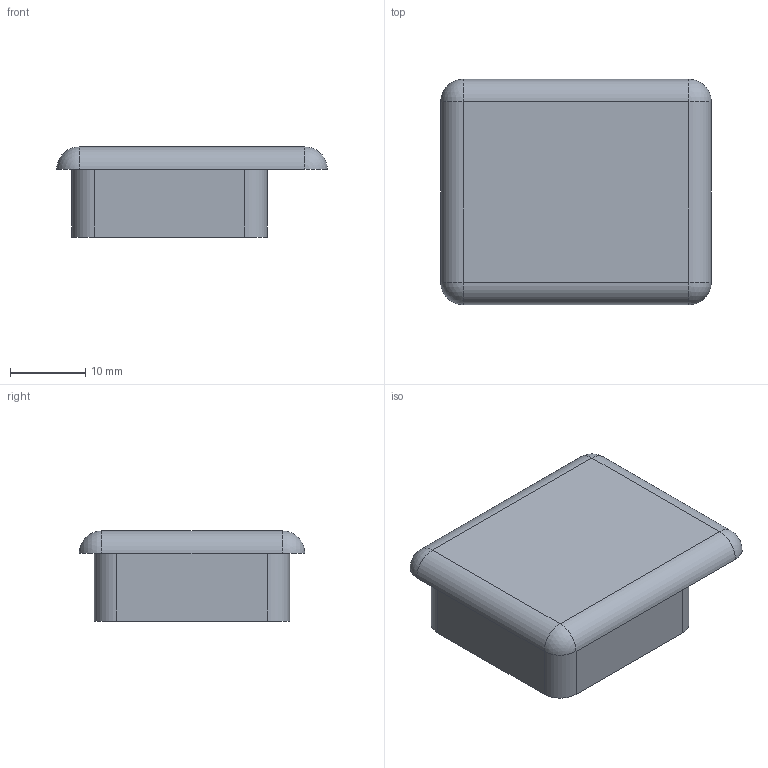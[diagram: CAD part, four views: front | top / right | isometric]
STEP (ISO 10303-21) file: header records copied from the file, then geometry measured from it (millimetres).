
FILE_DESCRIPTION (( 'STEP AP214' ), '1' );
FILE_NAME ('L21115.step', '2024-12-03T16:25:07', ( '' ), ( '' ), 'SwSTEP 2.0', 'SolidWorks 2023', '' );
FILE_SCHEMA (( 'AUTOMOTIVE_DESIGN' ));
Length unit declared in the file: millimetre
Products named in the file (1): L21115
Bounding box: 36 x 30 x 12 mm (x, y, z)
Volume: 4241.2 mm3; surface area: 4060 mm2
Topology: 1 solids, 1 shells, 28 faces, 72 edges, 44 vertices
Faces by surface type: plane 12, cylinder 12, sphere 4
Entity records: 851 total; most frequent: DIRECTION 154, CARTESIAN_POINT 141, ORIENTED_EDGE 136, EDGE_CURVE 68, AXIS2_PLACEMENT_3D 57, VERTEX_POINT 44, VECTOR 40, LINE 40
